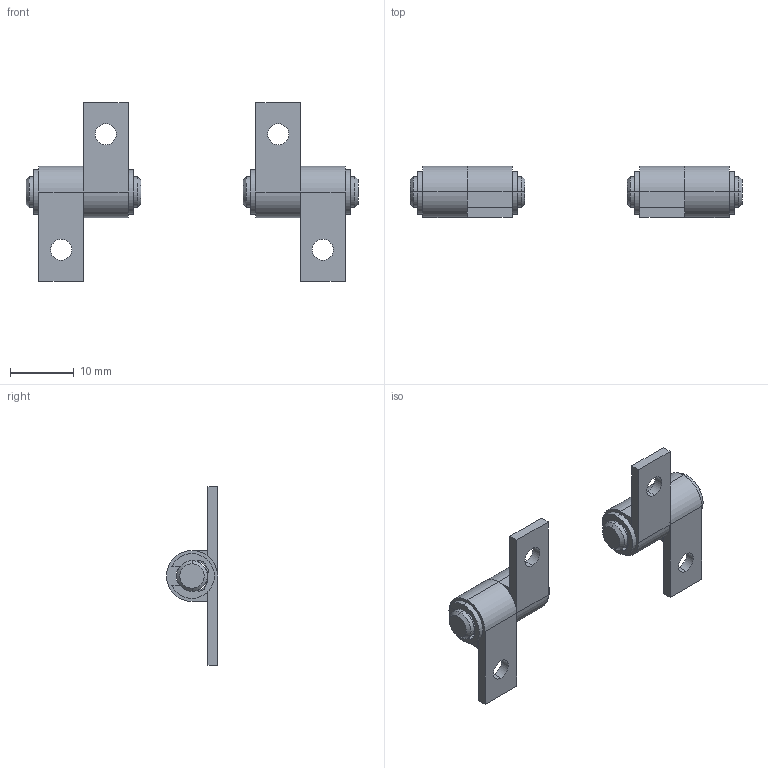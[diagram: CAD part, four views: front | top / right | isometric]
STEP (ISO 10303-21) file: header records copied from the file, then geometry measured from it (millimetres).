
FILE_DESCRIPTION (( 'STEP AP203' ), '1' );
FILE_NAME ('XG11-049.STEP', '2023-12-05T00:52:26', ( '' ), ( '' ), 'SwSTEP 2.0', 'SolidWorks 2020', '' );
FILE_SCHEMA (( 'CONFIG_CONTROL_DESIGN' ));
Length unit declared in the file: millimetre
Products named in the file (1): XG11-049
Bounding box: 52 x 8 x 28 mm (x, y, z)
Volume: 1957.6 mm3; surface area: 3129.8 mm2
Topology: 10 solids, 10 shells, 144 faces, 340 edges, 224 vertices
Faces by surface type: cylinder 68, plane 60, cone 8, bspline 8
Entity records: 4467 total; most frequent: CARTESIAN_POINT 973, DIRECTION 742, ORIENTED_EDGE 680, EDGE_CURVE 340, AXIS2_PLACEMENT_3D 281, VERTEX_POINT 224, LINE 180, VECTOR 180
